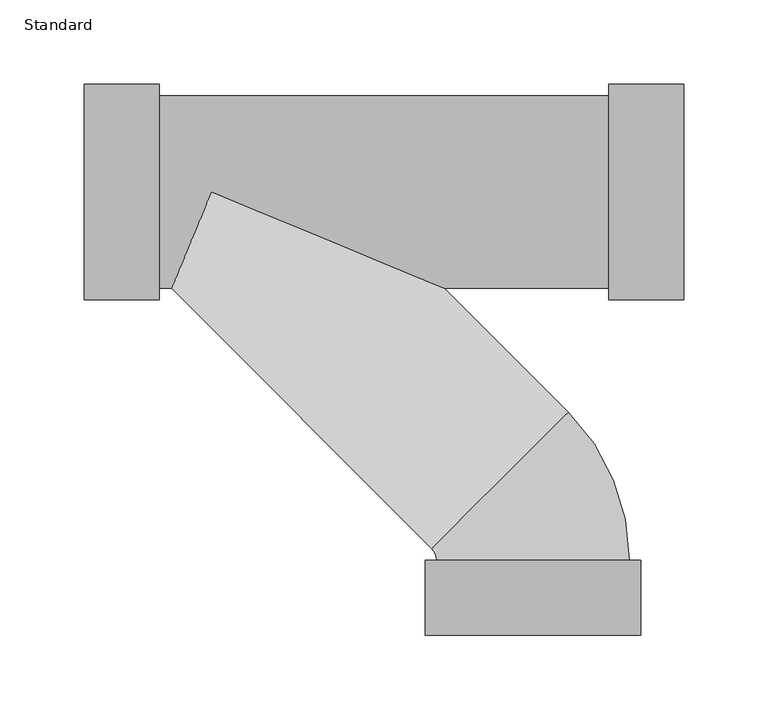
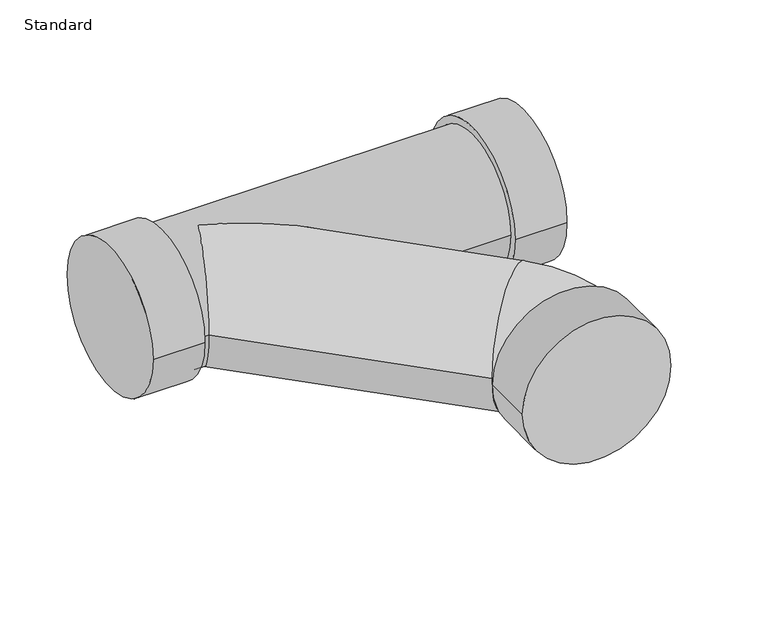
"""IFC4 building model written with IfcOpenShell, lengths in millimetres: pipe fitting geometry, GES Wye Combination with 8th Bend - PVC - Sch 40 - DWV : Standard."""

from ifc_helpers import new_model, si_unit, point, frame, origin, place, context, project, spatial, circle_curve, ellipse_curve, trimmed, source, transform, mapped, element, save
from ifc_brep_helpers import plane_surface, cylinder_surface, revolved_surface, advanced_brep


def standard_62f9fb3f(model_context):
    return source(origin(), model_context, "Body", "AdvancedBrep", [
        advanced_brep(
        [(-265.9058186, -63.754, 0.0), (-265.9058186, 63.754, 0.0), (-221.4558186, -63.754, 0.0), (-221.4558186, 63.754, 0.0), (-221.4558186, -57.15, 0.0), (-221.4558186, 57.15, 0.0), (44.8377814, 57.15, 0.0), (-214.2323034, -57.15, 0.0), (-190.5599983, 0.0, 57.15), (-52.5876932, -57.15, 0.0), (44.8377814, -57.15, 0.0), (-190.5599983, 0.0, -57.15), (44.8377814, -63.754, 0.0), (44.8377814, 63.754, 0.0), (89.2877814, -63.754, 0.0), (89.2877814, 63.754, 0.0), (-60.0074214, -211.374882, 0.0), (-57.1432186, -218.2893754, 0.0), (57.1567814, -218.2858246, 0.0), (20.8148837, -130.5525769, 0.0), (-63.7472186, -218.2895806, 0.0), (63.7607814, -218.2856194, 0.0), (-63.7458377, -262.7395806, 0.0), (63.7621623, -262.7356194, 0.0)],
        [
            (0, 1, circle_curve(frame((-265.9058186, 0.0, 0.0), z_axis=(-1.0, 0.0, 0.0), x_axis=(0.0, 1.0, 0.0)), 63.754)),
            (1, 0, circle_curve(frame((-265.9058186, 0.0, 0.0), z_axis=(-1.0, 0.0, 0.0), x_axis=(0.0, 1.0, 0.0)), 63.754)),
            (2, 3, circle_curve(frame((-221.4558186, 0.0, 0.0), z_axis=(1.0, 0.0, 0.0), x_axis=(0.0, 1.0, 0.0)), 63.754)),
            (3, 2, circle_curve(frame((-221.4558186, 0.0, 0.0), z_axis=(1.0, 0.0, 0.0), x_axis=(0.0, 1.0, 0.0)), 63.754)),
            (4, 5, circle_curve(frame((-221.4558186, 0.0, 0.0), z_axis=(-1.0, 0.0, 0.0), x_axis=(0.0, 1.0, 0.0)), 57.15)),
            (5, 4, circle_curve(frame((-221.4558186, 0.0, 0.0), z_axis=(-1.0, 0.0, 0.0), x_axis=(0.0, 1.0, 0.0)), 57.15)),
            (0, 2),
            (3, 1),
            (6, 5),
            (4, 7),
            (7, 8, ellipse_curve(frame((-190.5599983, 0.0, 0.0), z_axis=(-0.9238795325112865, 0.38268343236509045, 0.0), x_axis=(-0.38268343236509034, -0.9238795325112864, 0.0)), 61.8587142, 57.15)),
            (8, 9, ellipse_curve(frame((-190.5599983, 0.0, 0.0), z_axis=(0.3826834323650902, 0.9238795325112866, 0.0), x_axis=(-0.9238795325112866, 0.3826834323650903, 0.0)), 149.3401469, 57.15)),
            (9, 10),
            (10, 6, circle_curve(frame((44.8377814, 0.0, 0.0), z_axis=(-1.0, 0.0, 0.0), x_axis=(0.0, 1.0, 0.0)), 57.15)),
            (6, 10, circle_curve(frame((44.8377814, 0.0, 0.0), z_axis=(-1.0, 0.0, 0.0), x_axis=(0.0, 1.0, 0.0)), 57.15)),
            (9, 11, ellipse_curve(frame((-190.5599983, 0.0, 0.0), z_axis=(0.3826834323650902, 0.9238795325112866, 0.0), x_axis=(-0.9238795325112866, 0.3826834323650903, 0.0)), 149.3401469, 57.15)),
            (11, 7, ellipse_curve(frame((-190.5599983, 0.0, 0.0), z_axis=(-0.9238795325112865, 0.38268343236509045, 0.0), x_axis=(-0.38268343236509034, -0.9238795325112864, 0.0)), 61.8587142, 57.15)),
            (12, 13, circle_curve(frame((44.8377814, 0.0, 0.0), z_axis=(-1.0, 0.0, 0.0), x_axis=(0.0, 1.0, 0.0)), 63.754)),
            (13, 12, circle_curve(frame((44.8377814, 0.0, 0.0), z_axis=(-1.0, 0.0, 0.0), x_axis=(0.0, 1.0, 0.0)), 63.754)),
            (14, 15, circle_curve(frame((89.2877814, 0.0, 0.0), z_axis=(1.0, 0.0, 0.0), x_axis=(0.0, 1.0, 0.0)), 63.754)),
            (15, 14, circle_curve(frame((89.2877814, 0.0, 0.0), z_axis=(1.0, 0.0, 0.0), x_axis=(0.0, 1.0, 0.0)), 63.754)),
            (12, 14),
            (15, 13),
            (16, 17, circle_curve(frame((-66.9222186, -218.2896792, 0.0), z_axis=(0.0, 0.0, -1.0), x_axis=(0.9999999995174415, 3.106633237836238e-05, 0.0)), 9.779)),
            (17, 18, circle_curve(frame((0.0067814, -218.2876, 0.0), z_axis=(-3.106633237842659e-05, 0.9999999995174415, 0.0), x_axis=(-0.9999999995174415, -3.106633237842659e-05, 0.0)), 57.15)),
            (18, 19, circle_curve(frame((-66.9222186, -218.2896792, 0.0), z_axis=(0.0, 0.0, 1.0), x_axis=(0.9999999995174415, 3.106633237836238e-05, 0.0)), 124.079)),
            (19, 16, circle_curve(frame((-19.5962688, -170.9637295, 0.0), z_axis=(0.7071067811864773, -0.7071067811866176, 0.0), x_axis=(-0.7071067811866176, -0.7071067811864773, 0.0)), 57.15)),
            (16, 19, circle_curve(frame((-19.5962688, -170.9637295, 0.0), z_axis=(0.7071067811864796, -0.7071067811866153, 0.0), x_axis=(-0.7071067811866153, -0.7071067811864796, 0.0)), 57.15)),
            (18, 17, circle_curve(frame((0.0067814, -218.2876, 0.0), z_axis=(-3.106633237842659e-05, 0.9999999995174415, 0.0), x_axis=(-0.9999999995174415, -3.106633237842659e-05, 0.0)), 57.15)),
            (19, 9),
            (7, 16),
            (20, 21, circle_curve(frame((0.0067814, -218.2876, 0.0), z_axis=(-3.106633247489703e-05, 0.9999999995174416, 0.0), x_axis=(0.9999999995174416, 3.106633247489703e-05, 0.0)), 63.754)),
            (21, 20, circle_curve(frame((0.0067814, -218.2876, 0.0), z_axis=(-3.106633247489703e-05, 0.9999999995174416, 0.0), x_axis=(0.9999999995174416, 3.106633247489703e-05, 0.0)), 63.754)),
            (22, 23, circle_curve(frame((0.0081623, -262.7376, 0.0), z_axis=(3.106633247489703e-05, -0.9999999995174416, 0.0), x_axis=(0.9999999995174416, 3.106633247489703e-05, 0.0)), 63.754)),
            (23, 22, circle_curve(frame((0.0081623, -262.7376, 0.0), z_axis=(3.106633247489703e-05, -0.9999999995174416, 0.0), x_axis=(0.9999999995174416, 3.106633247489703e-05, 0.0)), 63.754)),
            (20, 22),
            (23, 21),
        ],
        [
            plane_surface(frame((-265.9058186, 0.0, 0.0), z_axis=(-1.0, 0.0, 0.0), x_axis=(0.0, 0.0, 1.0))),
            plane_surface(frame((-221.4558186, 0.0, 0.0), z_axis=(1.0, 0.0, 0.0), x_axis=(0.0, 0.0, 1.0))),
            cylinder_surface(frame((-265.9058186, 0.0, 0.0), z_axis=(-1.0, 0.0, 0.0), x_axis=(0.0, 1.0, 0.0)), 63.754),
            cylinder_surface(frame((-221.4558186, 0.0, 0.0), z_axis=(-1.0, 0.0, 0.0), x_axis=(0.0, 1.0, 0.0)), 57.15),
            plane_surface(frame((44.8377814, 0.0, 0.0), z_axis=(-1.0, 0.0, 0.0), x_axis=(0.0, 0.0, 1.0))),
            plane_surface(frame((89.2877814, 0.0, 0.0), z_axis=(1.0, 0.0, 0.0), x_axis=(0.0, 0.0, 1.0))),
            cylinder_surface(frame((44.8377814, 0.0, 0.0), z_axis=(-1.0, 0.0, 0.0), x_axis=(0.0, 1.0, 0.0)), 63.754),
            revolved_surface(trimmed(ellipse_curve(frame((0.0067814, -218.2876, 0.0), z_axis=(3.106633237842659e-05, -0.9999999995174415, 0.0), x_axis=(-0.9999999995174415, -3.106633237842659e-05, 0.0)), 57.15, 57.15), [point((57.1567814, -218.2858246, 0.0))], [point((-57.1432186, -218.2893754, 0.0))], True, "CARTESIAN"), (-66.9222186, -218.2896792, 0.0), (0.0, 0.0, 1.0)),
            revolved_surface(trimmed(ellipse_curve(frame((0.0067814, -218.2876, 0.0), z_axis=(3.106633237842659e-05, -0.9999999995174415, 0.0), x_axis=(-0.9999999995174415, -3.106633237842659e-05, 0.0)), 57.15, 57.15), [point((-57.1432186, -218.2893754, 0.0))], [point((57.1567814, -218.2858246, 0.0))], True, "CARTESIAN"), (-66.9222186, -218.2896792, 0.0), (0.0, 0.0, 1.0)),
            cylinder_surface(frame((-19.5962688, -170.9637295, 0.0), z_axis=(0.7071067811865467, -0.7071067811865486, 0.0), x_axis=(-0.7071067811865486, -0.7071067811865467, 0.0)), 57.15),
            plane_surface(frame((0.0067814, -218.2876, 0.0), z_axis=(-3.106633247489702e-05, 0.9999999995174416, 0.0), x_axis=(0.0, 0.0, 1.0))),
            plane_surface(frame((0.0081623, -262.7376, 0.0), z_axis=(3.106633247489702e-05, -0.9999999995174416, 0.0), x_axis=(0.0, 0.0, 1.0))),
            cylinder_surface(frame((0.0067814, -218.2876, 0.0), z_axis=(-3.106633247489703e-05, 0.9999999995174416, 0.0), x_axis=(0.9999999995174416, 3.106633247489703e-05, 0.0)), 63.754),
        ],
        [
            (0, [[1, 2]]),
            (1, [[3, 4], [5, 6]]),
            (2, [[-1, 7, -4, 8]]),
            (2, [[-2, -8, -3, -7]]),
            (3, [[9, -5, 10, 11, 12, 13, 14]]),
            (3, [[-9, 15, -13, 16, 17, -10, -6]]),
            (4, [[18, 19], [-14, -15]]),
            (5, [[20, 21]]),
            (6, [[-18, 22, -21, 23]]),
            (6, [[-19, -23, -20, -22]]),
            (7, [[24, 25, 26, 27]]),
            (8, [[-24, 28, -26, 29]]),
            (9, [[-27, 30, -12, -11, 31]]),
            (9, [[-28, -31, -17, -16, -30]]),
            (10, [[32, 33], [-25, -29]]),
            (11, [[34, 35]]),
            (12, [[-32, 36, -35, 37]]),
            (12, [[-33, -37, -34, -36]]),
        ],
    ),
    ])


if __name__ == "__main__":
    model = new_model("IFC4")
    model_context = context("Model", 3, world=origin())
    ifc_project = project(units=[si_unit("LENGTHUNIT", "METRE", prefix="MILLI")], contexts=[model_context])
    site = spatial("IfcSite", under=ifc_project)
    building = spatial("IfcBuilding", under=site)
    placement = place(None, origin())
    standard_shape = standard_62f9fb3f(model_context)
    element("IfcPipeFitting", 1, ObjectType="GES Wye Combination with 8th Bend - PVC - Sch 40 - DWV : Standard", at=placement, inside=building, context=model_context, shape_type="MappedRepresentation", body=[
        mapped(standard_shape, transform((0.0, 0.0, 0.0), x_axis=(1.0, 0.0, 0.0), y_axis=(0.0, 1.0, 0.0), z_axis=(0.0, 0.0, 1.0))),
    ])
    save(model, "model.ifc")
